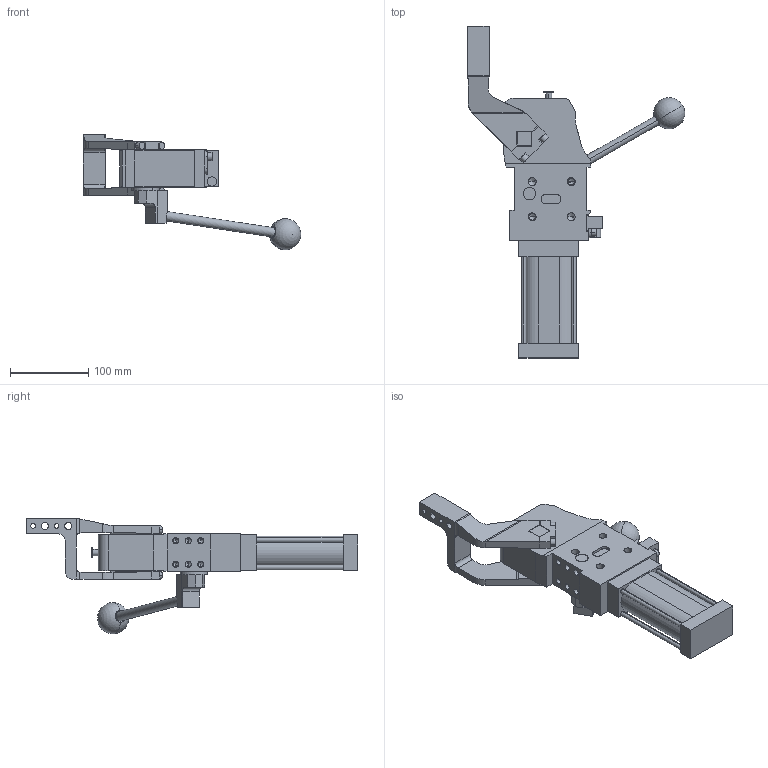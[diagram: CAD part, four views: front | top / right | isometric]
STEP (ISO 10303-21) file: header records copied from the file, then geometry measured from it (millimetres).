
FILE_DESCRIPTION (( 'STEP AP214' ), '1' );
FILE_NAME ('cplm50lbh3si1g_107.STEP', '2023-01-26T13:55:42', ( '' ), ( '' ), 'SwSTEP 2.0', 'SolidWorks 2022', '' );
FILE_SCHEMA (( 'AUTOMOTIVE_DESIGN' ));
Length unit declared in the file: millimetre
Products named in the file (5): cplm50lbh3si1g_107; leva_dx_offset_45_cpl50; blocchetto_VEP_0; comando_manuale_cplm_50; meccanica_cplm_50
Assembly tree (4 placements, depth 2):
  cplm50lbh3si1g_107
    meccanica_cplm_50
    blocchetto_VEP_0
    leva_dx_offset_45_cpl50
    comando_manuale_cplm_50
Bounding box: 277.96 x 424.5 x 148 mm (x, y, z)
Volume: 1483582.8 mm3; surface area: 184927.1 mm2
Topology: 4 solids, 4 shells, 433 faces, 1114 edges, 695 vertices
Faces by surface type: plane 214, cylinder 167, cone 50, sphere 2
Entity records: 14434 total; most frequent: CARTESIAN_POINT 2298, DIRECTION 2278, ORIENTED_EDGE 2126, EDGE_CURVE 1063, AXIS2_PLACEMENT_3D 790, LINE 698, VECTOR 698, VERTEX_POINT 692
